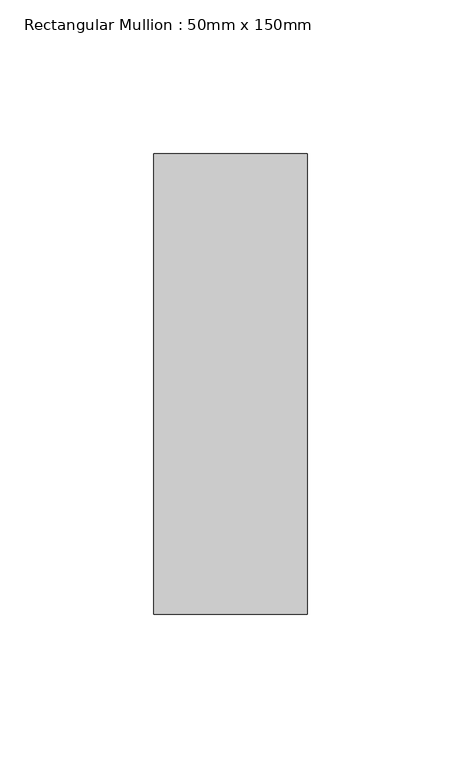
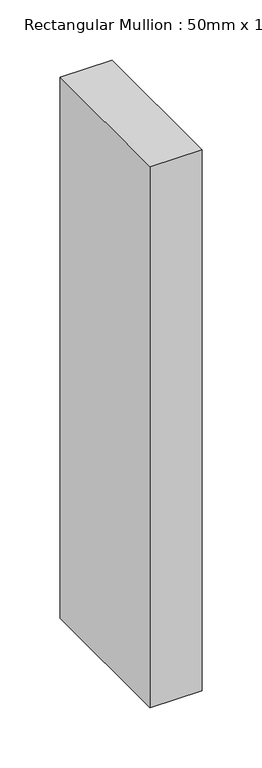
"""IFC4 building model written with IfcOpenShell, lengths in millimetres: member geometry, Rectangular Mullion : 50mm x 150mm."""

import ifcopenshell
import ifcopenshell.guid

model = None  # the IFC model being written
_history = None  # IfcOwnerHistory: only IFC2X3 demands one
_inside = {}  # id of a spatial element -> (the spatial element, [elements in it])
_under = {}  # id of a project, library or spatial element -> (it, [spatial elements below it])
_declared = {}  # id of a project -> (the project, [libraries it declares])
_typed = {}  # id of a type object -> (the type object, [elements of that type])
_made_of = {}  # id of a material, layer set ... -> (it, [elements and type objects made of it])


def new_model(schema):
    """Start an empty IFC model of exactly this schema.

    Asked for "IFC4X3", IfcOpenShell would pick the latest addendum, in which some entities
    have other attributes; the version numbers below select the first issue.
    IFC2X3 requires an IfcOwnerHistory on every rooted entity: one is made here for all.
    """
    global model, _history
    if schema == "IFC4X3":
        model = ifcopenshell.file(schema_version=(4, 3, 0, 0))
    else:
        model = ifcopenshell.file(schema=schema)
    _inside.clear()
    _under.clear()
    _declared.clear()
    _typed.clear()
    _made_of.clear()
    _history = None
    if model.schema == "IFC2X3":
        org = make("IfcOrganization", Name="unknown")
        user = make(
            "IfcPersonAndOrganization",
            ThePerson=make("IfcPerson", FamilyName="unknown"),
            TheOrganization=org,
        )
        app = make(
            "IfcApplication",
            ApplicationDeveloper=org,
            Version="unknown",
            ApplicationFullName="unknown",
            ApplicationIdentifier="unknown",
        )
        _history = make(
            "IfcOwnerHistory",
            OwningUser=user,
            OwningApplication=app,
            ChangeAction="ADDED",
            CreationDate=0,
        )
    return model


def make(cls, **values):
    """One entity of the class cls with the attributes given. An attribute that is None is left unset."""
    return model.create_entity(
        cls, **{name: value for name, value in values.items() if value is not None}
    )


def rooted(cls, **values):
    """An entity with a GlobalId (a new one), such as an element, a storey or a relation."""
    return make(cls, GlobalId=ifcopenshell.guid.new(), OwnerHistory=_history, **values)


def si_unit(unit_type, name, prefix=None):
    """IfcSIUnit, for example si_unit("LENGTHUNIT", "METRE", prefix="MILLI")."""
    return make("IfcSIUnit", UnitType=unit_type, Prefix=prefix, Name=name)


def assignment(units):
    """IfcUnitAssignment: the units of a project."""
    return None if units is None else make("IfcUnitAssignment", Units=units)


def point(xyz):
    """IfcCartesianPoint."""
    return None if xyz is None else make("IfcCartesianPoint", Coordinates=xyz)


def direction(xyz):
    """IfcDirection."""
    return None if xyz is None else make("IfcDirection", DirectionRatios=xyz)


def frame(location, z_axis=None, x_axis=None):
    """IfcAxis2Placement3D, a coordinate frame: its origin and axes. An axis left out is left unset."""
    return make(
        "IfcAxis2Placement3D",
        Location=point(location),
        Axis=direction(z_axis),
        RefDirection=direction(x_axis),
    )


def origin():
    """The frame at (0, 0, 0) with its axes left unset."""
    return frame((0.0, 0.0, 0.0))


def place(relative_to, where):
    """IfcLocalPlacement: puts the frame where relative to a parent placement (None: the world)."""
    return make(
        "IfcLocalPlacement", PlacementRelTo=relative_to, RelativePlacement=where
    )


def context(
    kind, dimensions, precision=None, world=None, true_north=None, identifier=None
):
    """IfcGeometricRepresentationContext, for example the 3D "Model" context."""
    return make(
        "IfcGeometricRepresentationContext",
        ContextIdentifier=identifier,
        ContextType=kind,
        CoordinateSpaceDimension=dimensions,
        Precision=precision,
        WorldCoordinateSystem=world,
        TrueNorth=true_north,
    )


def project(units=None, contexts=None):
    """IfcProject with its units and contexts."""
    return rooted(
        "IfcProject",
        Name="project",
        RepresentationContexts=contexts,
        UnitsInContext=assignment(units),
    )


def spatial(cls, under=None, at=None, **own):
    """A site, building, storey or space (cls), placed at a placement, below another one or the project."""
    s = rooted(cls, ObjectPlacement=at, **own)
    if under is not None:
        _under.setdefault(under.id(), (under, []))[1].append(s)
    return s


def polyline(points):
    """IfcPolyline through the points."""
    return make("IfcPolyline", Points=[point(p) for p in points])


def outline(outer, holes=None, kind="AREA"):
    """IfcArbitraryClosedProfileDef: a profile drawn as a closed curve; with holes, ...WithVoids."""
    if holes is None:
        return make("IfcArbitraryClosedProfileDef", ProfileType=kind, OuterCurve=outer)
    return make(
        "IfcArbitraryProfileDefWithVoids",
        ProfileType=kind,
        OuterCurve=outer,
        InnerCurves=holes,
    )


def extrude(swept, where, along, depth):
    """IfcExtrudedAreaSolid: the profile swept, set in the frame where, extruded along a direction by depth."""
    return make(
        "IfcExtrudedAreaSolid",
        SweptArea=swept,
        Position=where,
        ExtrudedDirection=direction(along),
        Depth=depth,
    )


def shape(context_of_items, identifier, shape_type, items):
    """IfcShapeRepresentation: the items that make up one representation, for example the "Body"."""
    return make(
        "IfcShapeRepresentation",
        ContextOfItems=context_of_items,
        RepresentationIdentifier=identifier,
        RepresentationType=shape_type,
        Items=items,
    )


def source(mapping_origin, context_of_items, identifier, shape_type, items):
    """IfcRepresentationMap: a shape defined once, which mapped items show again and again."""
    return make(
        "IfcRepresentationMap",
        MappingOrigin=mapping_origin,
        MappedRepresentation=shape(context_of_items, identifier, shape_type, items),
    )


def transform(
    local_origin,
    x_axis=None,
    y_axis=None,
    z_axis=None,
    scale=None,
    scale2=None,
    scale3=None,
    uniform=True,
):
    """IfcCartesianTransformationOperator3D, or its non-uniform kind. x_axis, y_axis, z_axis: its Axis1, 2, 3."""
    if uniform:
        return make(
            "IfcCartesianTransformationOperator3D",
            Axis1=direction(x_axis),
            Axis2=direction(y_axis),
            LocalOrigin=point(local_origin),
            Scale=scale,
            Axis3=direction(z_axis),
        )
    return make(
        "IfcCartesianTransformationOperator3DnonUniform",
        Axis1=direction(x_axis),
        Axis2=direction(y_axis),
        LocalOrigin=point(local_origin),
        Scale=scale,
        Axis3=direction(z_axis),
        Scale2=scale2,
        Scale3=scale3,
    )


def mapped(mapping_source, mapping_target):
    """IfcMappedItem: shows the shape of a source again, moved by a transform."""
    return make(
        "IfcMappedItem", MappingSource=mapping_source, MappingTarget=mapping_target
    )


def made_of(thing, what):
    """Note that an element or type object is made of a material, layer set ...; save() writes the relation."""
    if what is not None:
        _made_of.setdefault(what.id(), (what, []))[1].append(thing)
    return thing


def element(
    cls,
    number,
    at=None,
    inside=None,
    cuts=None,
    type_object=None,
    material=None,
    context=None,
    identifier="Body",
    shape_type=None,
    held_by="IfcProductDefinitionShape",
    body=None,
    shapes=None,
    **own,
):
    """One element of the class cls, such as IfcWall. Its Tag is "e" and its number.

    at: its placement. inside: the storey or other place that contains it. cuts: it is an
    opening in that element (IfcRelVoidsElement). A single representation is given by context,
    identifier, shape_type and body (its items); several are given by shapes. held_by: the class
    of the entity that holds the representations. save() writes the other relations.
    """
    e = rooted(cls, Tag="e%d" % number, ObjectPlacement=at, **own)
    if body is not None:
        shapes = [shape(context, identifier, shape_type, body)]
    if shapes is not None:
        e.Representation = make(held_by, Representations=shapes)
    if inside is not None:
        _inside.setdefault(inside.id(), (inside, []))[1].append(e)
    if cuts is not None:
        rooted(
            "IfcRelVoidsElement", RelatingBuildingElement=cuts, RelatedOpeningElement=e
        )
    if type_object is not None:
        _typed.setdefault(type_object.id(), (type_object, []))[1].append(e)
    return made_of(e, material)


def aggregate(whole, parts):
    """IfcRelAggregates: a whole, such as a stair, and the parts it consists of."""
    return rooted("IfcRelAggregates", RelatingObject=whole, RelatedObjects=parts)


def save(model, path):
    """Write the relations noted so far, then the file.

    IfcRelAggregates (storeys below a building ...), IfcRelContainedInSpatialStructure (elements
    in a storey), IfcRelDefinesByType, IfcRelAssociatesMaterial and IfcRelDeclares: one each for
    every whole, place, type object, material and project.
    """
    for whole, parts in _under.values():
        aggregate(whole, parts)
    for where, things in _inside.values():
        rooted(
            "IfcRelContainedInSpatialStructure",
            RelatedElements=things,
            RelatingStructure=where,
        )
    for kind, things in _typed.values():
        rooted("IfcRelDefinesByType", RelatedObjects=things, RelatingType=kind)
    for what, things in _made_of.values():
        rooted("IfcRelAssociatesMaterial", RelatedObjects=things, RelatingMaterial=what)
    for by, libraries in _declared.values():
        rooted("IfcRelDeclares", RelatingContext=by, RelatedDefinitions=libraries)
    model.write(path)


def rectangular_mullion_50mm_x_150mm_5dbd0429(model_context):
    return source(origin(), model_context, "Body", "SweptSolid", [
        extrude(outline(polyline([(0.0, 75.0), (0.0, -75.0), (-50.0, -75.0), (-50.0, 75.0), (0.0, 75.0)])), frame((0.0, 0.0, -550.0), z_axis=(0.0, 0.0, 1.0), x_axis=(1.0, 0.0, 0.0)), (0.0, 0.0, 1.0), 550.0),
    ])


if __name__ == "__main__":
    model = new_model("IFC4")
    model_context = context("Model", 3, world=origin())
    ifc_project = project(units=[si_unit("LENGTHUNIT", "METRE", prefix="MILLI")], contexts=[model_context])
    site = spatial("IfcSite", under=ifc_project)
    building = spatial("IfcBuilding", under=site)
    placement = place(None, origin())
    rectangular_mullion_50mm_x_150mm_shape = rectangular_mullion_50mm_x_150mm_5dbd0429(model_context)
    element("IfcMember", 1, ObjectType="Rectangular Mullion : 50mm x 150mm", at=placement, inside=building, context=model_context, shape_type="MappedRepresentation", body=[
        mapped(rectangular_mullion_50mm_x_150mm_shape, transform((0.0, 0.0, 0.0), x_axis=(1.0, 0.0, 0.0), y_axis=(0.0, 1.0, 0.0), z_axis=(0.0, 0.0, 1.0))),
    ])
    save(model, "model.ifc")
